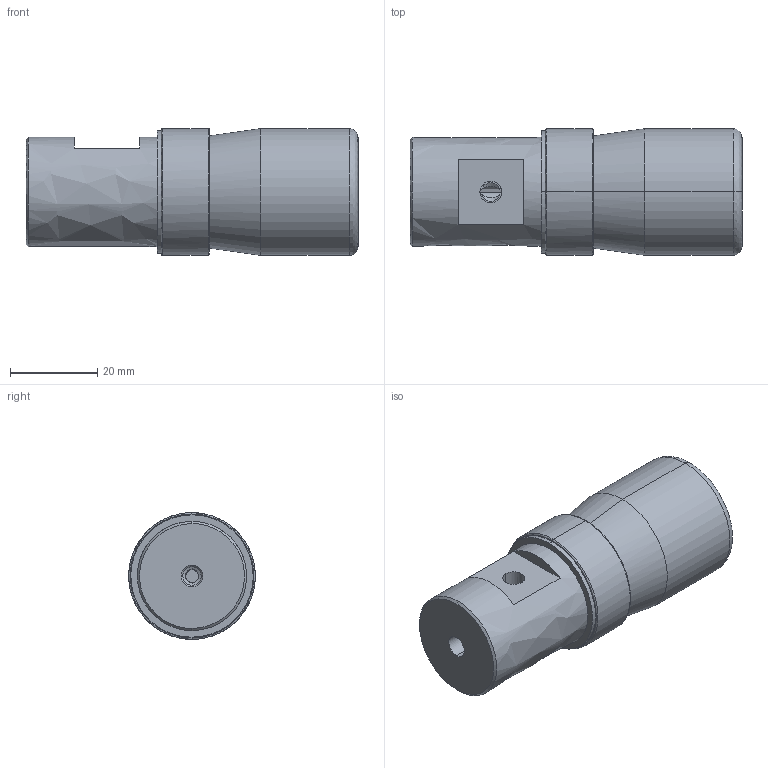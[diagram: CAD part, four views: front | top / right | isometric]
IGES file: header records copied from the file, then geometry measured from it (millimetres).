
Start section: ------------------------------------------------------------------------
Global section: file name: D:\ICADMX\tmp\trans3d_spg\TGMX25.1844.RBP025RCA_23341.igs; native system: spGate; preprocessor: ver11.3.7; author: Unknown; organization: Unknown; date: 150330.151310; units: millimetre
Bounding box: 76 x 28.95 x 29 mm (x, y, z)
Volume: 41397.7 mm3; surface area: 8862.8 mm2
Topology: 1 solids, 1 shells, 48 faces, 105 edges, 65 vertices
Faces by surface type: bspline 48
